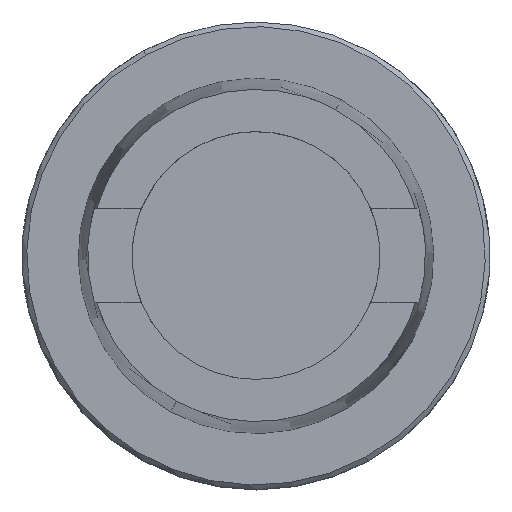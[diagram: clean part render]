
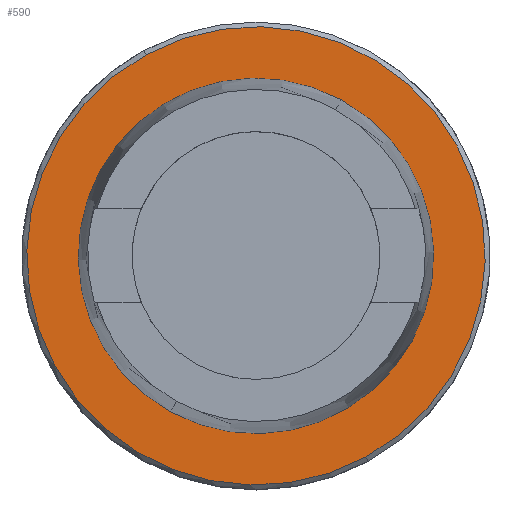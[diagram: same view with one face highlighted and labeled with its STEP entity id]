
A CAD part, top view. The second image highlights one B-rep face of the part: STEP entity #590.
In plain terms, the highlighted planar face has unit normal (0, 0, 1).
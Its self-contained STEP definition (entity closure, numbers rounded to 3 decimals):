
#518=AXIS2_PLACEMENT_3D('Circle Axis2P3D',#516,#517,$) ;
#548=AXIS2_PLACEMENT_3D('Circle Axis2P3D',#546,#547,$) ;
#566=AXIS2_PLACEMENT_3D('Plane Axis2P3D',#563,#564,#565) ;
#570=AXIS2_PLACEMENT_3D('Circle Axis2P3D',#568,#569,$) ;
#579=AXIS2_PLACEMENT_3D('Circle Axis2P3D',#577,#578,$) ;
#513=CARTESIAN_POINT('Vertex',(18.218,33.348,0.)) ;
#516=CARTESIAN_POINT('Axis2P3D Location',(0.,0.,0.)) ;
#520=CARTESIAN_POINT('Vertex',(-18.218,-33.348,0.)) ;
#546=CARTESIAN_POINT('Axis2P3D Location',(0.,0.,0.)) ;
#563=CARTESIAN_POINT('Axis2P3D Location',(0.,-38.285,0.)) ;
#568=CARTESIAN_POINT('Axis2P3D Location',(0.,0.,0.)) ;
#572=CARTESIAN_POINT('Vertex',(-23.492,43.002,0.)) ;
#574=CARTESIAN_POINT('Vertex',(23.492,-43.002,0.)) ;
#577=CARTESIAN_POINT('Axis2P3D Location',(0.,0.,0.)) ;
#517=DIRECTION('Axis2P3D Direction',(-0.,0.,-1.)) ;
#547=DIRECTION('Axis2P3D Direction',(-0.,0.,-1.)) ;
#564=DIRECTION('Axis2P3D Direction',(0.,0.,-1.)) ;
#565=DIRECTION('Axis2P3D XDirection',(-1.,0.,0.)) ;
#569=DIRECTION('Axis2P3D Direction',(0.,0.,-1.)) ;
#578=DIRECTION('Axis2P3D Direction',(0.,0.,-1.)) ;
#583=ORIENTED_EDGE('',*,*,#576,.F.) ;
#584=ORIENTED_EDGE('',*,*,#581,.F.) ;
#587=ORIENTED_EDGE('',*,*,#550,.F.) ;
#588=ORIENTED_EDGE('',*,*,#522,.F.) ;
#589=FACE_BOUND('',#586,.T.) ;
#590=ADVANCED_FACE('NOCUT',(#585,#589),#567,.F.) ;
#519=CIRCLE('generated circle',#518,38.) ;
#549=CIRCLE('generated circle',#548,38.) ;
#571=CIRCLE('generated circle',#570,49.) ;
#580=CIRCLE('generated circle',#579,49.) ;
#522=EDGE_CURVE('',#514,#521,#519,.F.) ;
#550=EDGE_CURVE('',#521,#514,#549,.F.) ;
#576=EDGE_CURVE('',#573,#575,#571,.T.) ;
#581=EDGE_CURVE('',#575,#573,#580,.T.) ;
#582=EDGE_LOOP('',(#583,#584)) ;
#586=EDGE_LOOP('',(#587,#588)) ;
#585=FACE_OUTER_BOUND('',#582,.T.) ;
#567=PLANE('',#566) ;
#514=VERTEX_POINT('',#513) ;
#521=VERTEX_POINT('',#520) ;
#573=VERTEX_POINT('',#572) ;
#575=VERTEX_POINT('',#574) ;
